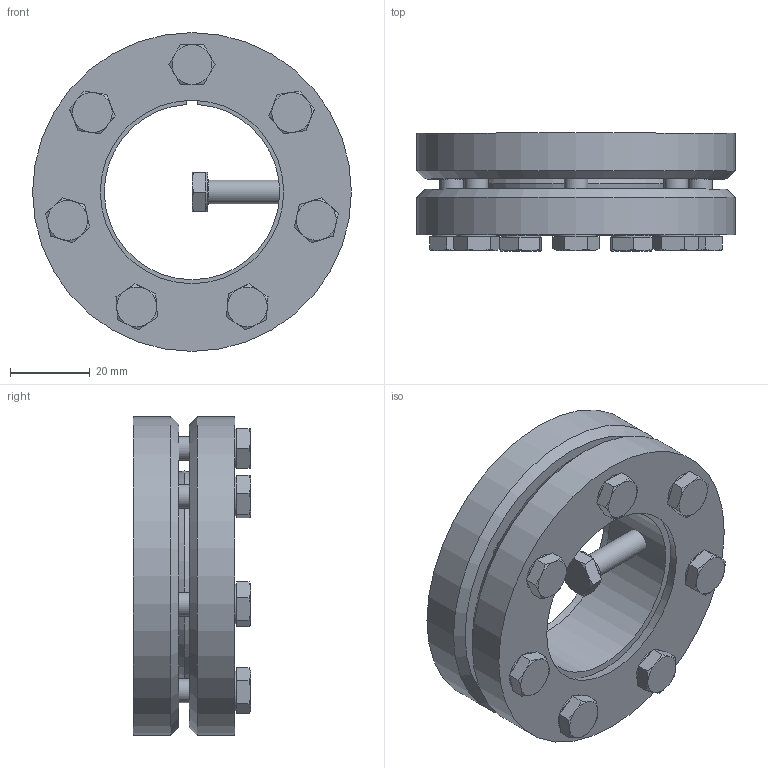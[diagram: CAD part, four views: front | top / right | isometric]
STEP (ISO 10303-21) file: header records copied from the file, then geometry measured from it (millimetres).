
FILE_DESCRIPTION( ( 'Unknown' ), '1' );
FILE_NAME( 'C:/Dokumente und Einstellungen/Sven/Desktop/homepage/cad - homepage/KBS19/KBS 19 - 44 x 80.stp', 'Unknown', ( 'Unknown' ), ( 'Unknown' ), 'XStep 1.0', 'Unknown', ' ' );
FILE_SCHEMA( ( 'automotive_design' ) );
Length unit declared in the file: millimetre
Products named in the file (3): Assem1; KBS 19 - 44 x 80; ISO 4017 - M6 x 20-N
Bounding box: 80 x 29.5 x 80 mm (x, y, z)
Volume: 157819.8 mm3; surface area: 54475.2 mm2
Topology: 10 solids, 10 shells, 274 faces, 640 edges, 394 vertices
Faces by surface type: plane 148, cone 68, cylinder 50, torus 8
Full cylindrical faces by diameter (mm): 6 x36, 10 x8, 80 x4
Entity records: 2022 total; most frequent: CARTESIAN_POINT 330, DIRECTION 312, ORIENTED_EDGE 244, AXIS2_PLACEMENT_3D 135, EDGE_CURVE 122, EDGE_LOOP 119, VERTEX_POINT 89, FACE_OUTER_BOUND 81
